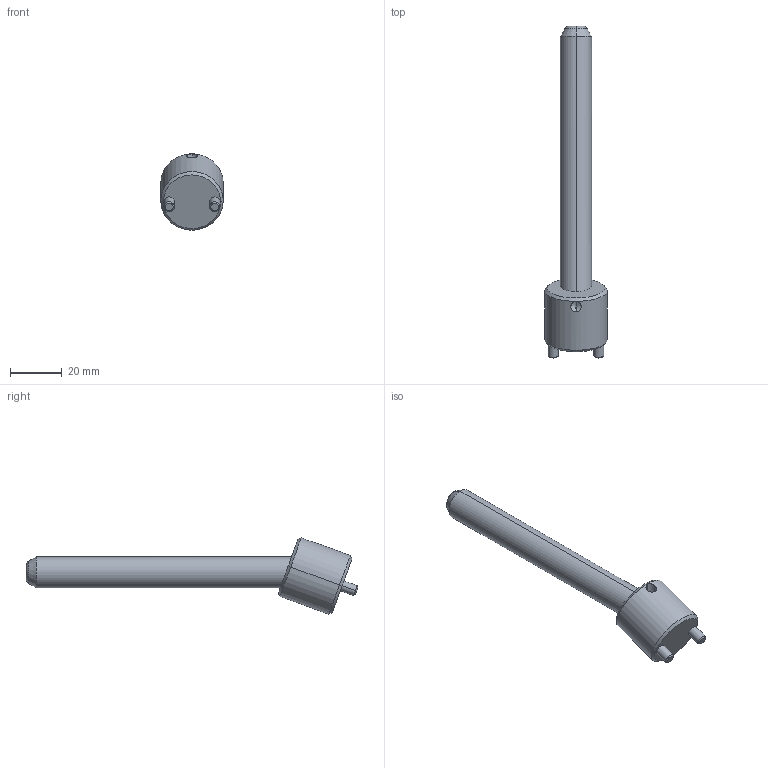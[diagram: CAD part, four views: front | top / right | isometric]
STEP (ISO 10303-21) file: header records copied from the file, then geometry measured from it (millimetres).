
FILE_DESCRIPTION(('CATIA V5 STEP Exchange'),'2;1');
FILE_NAME('C:\Users\Raffaele\Desktop\3D BOLEX\3D FILES CF BOLEX\19-INCLINED ASSEMBLY REF_CI\CI2012100.stp','2019-06-21T10:16:21+00:00',('none'),('none'),'CATIA Version 5 Release 20 GA (IN-10)','CATIA V5 STEP AP203','none');
FILE_SCHEMA(('CONFIG_CONTROL_DESIGN'));
Length unit declared in the file: millimetre
Products named in the file (1): CI2012100
Assembly tree (2 placements, depth 2):
  CI2012100
    #58
    #578
Bounding box: 24 x 127.68 x 29.39 mm (x, y, z)
Volume: 21028.1 mm3; surface area: 7956.7 mm2
Topology: 2 solids, 2 shells, 39 faces, 82 edges, 47 vertices
Faces by surface type: cone 14, cylinder 14, plane 7, torus 4
Entity records: 1464 total; most frequent: CARTESIAN_POINT 605, ORIENTED_EDGE 160, DIRECTION 145, EDGE_CURVE 80, AXIS2_PLACEMENT_3D 72, VERTEX_POINT 47, EDGE_LOOP 43, ADVANCED_FACE 39
